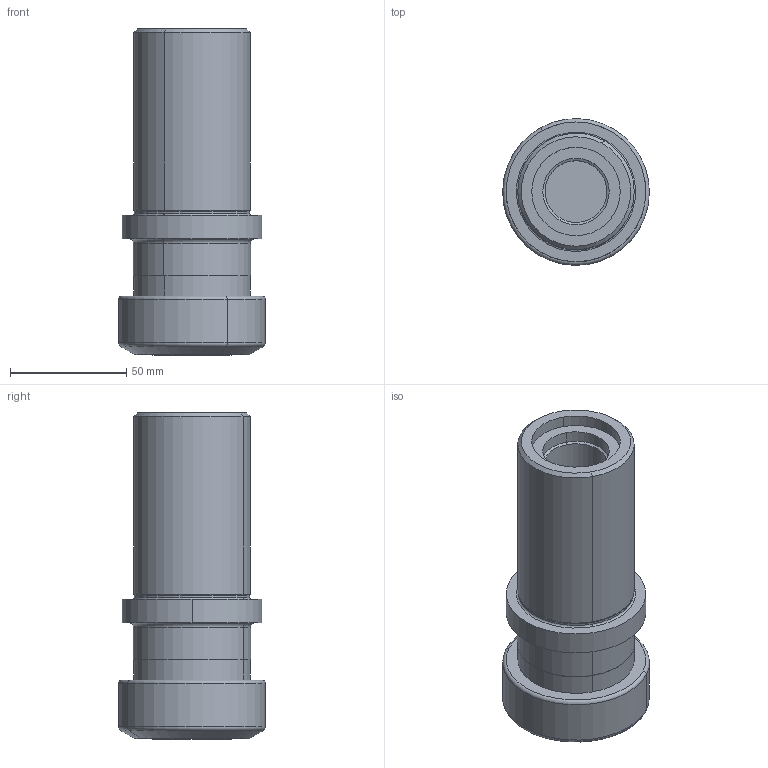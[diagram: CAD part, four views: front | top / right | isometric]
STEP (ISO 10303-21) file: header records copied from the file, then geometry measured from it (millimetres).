
FILE_DESCRIPTION(('CATIA V5 STEP','CAx-IF Rec.Pracs.--- Model Styling and Organization---1.2---2011-12-15'),'2;1');
FILE_NAME('\\nas01\drv1\utils\eitdev\rte\eit\transmagicconvert\db\out\635966521258774431\4508010 LM.stp','2016-04-19T05:42:18+00:00',('none'),('none'),'CATIA Version 5 Release 21 SP 5 (IN-10)','CATIA V5 STEP AP214','none');
FILE_SCHEMA(('AUTOMOTIVE_DESIGN { 1 0 10303 214 1 1 1 1 }'));
Length unit declared in the file: millimetre
Products named in the file (1): ST 50X 80 ER40 F
Bounding box: 62.98 x 62.98 x 140.03 mm (x, y, z)
Volume: 233620.9 mm3; surface area: 39361.7 mm2
Topology: 1 solids, 1 shells, 60 faces, 122 edges, 72 vertices
Faces by surface type: cylinder 24, cone 12, torus 12, plane 10, extrusion 2
Entity records: 1535 total; most frequent: CARTESIAN_POINT 355, ORIENTED_EDGE 244, DIRECTION 196, EDGE_CURVE 122, AXIS2_PLACEMENT_3D 119, CIRCLE 80, VERTEX_POINT 72, EDGE_LOOP 68
